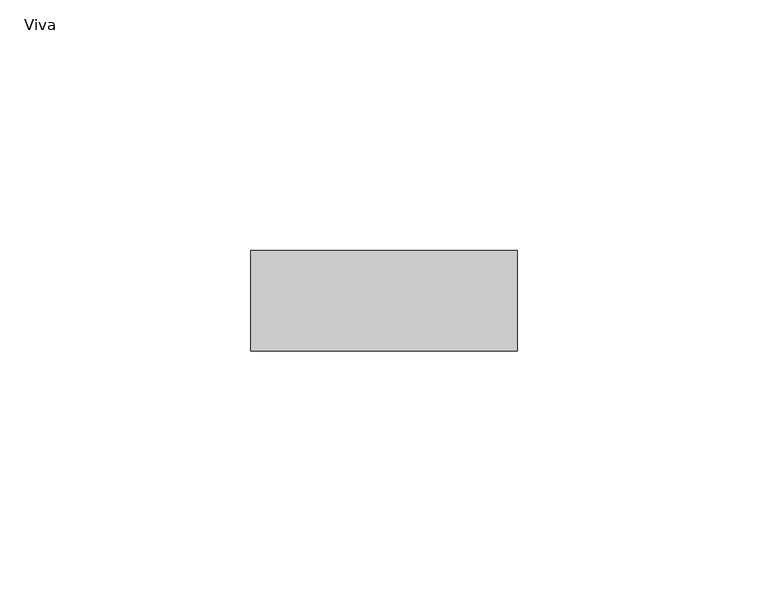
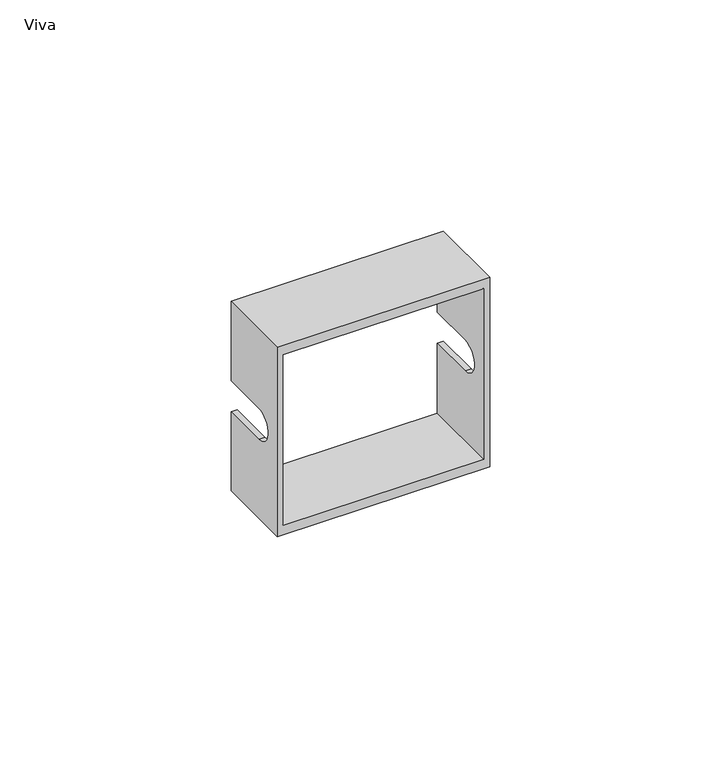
"""IFC4 building model written with IfcOpenShell, lengths in millimetres: proxy geometry, КНС_КаркасНа2МодуляДляМонтажаЭлектроустановочныхИзделий_ILF_DKC : Viva."""

from ifc_helpers import new_model, si_unit, frame, origin, place, context, project, spatial, polyline, circle_curve, source, transform, mapped, element, save
from ifc_brep_helpers import plane_surface, revolved_surface, advanced_brep


def viva_5f314de5(model_context):
    return source(origin(), model_context, "Body", "AdvancedBrep", [
        advanced_brep(
        [(25.0, -20.0, 22.5), (25.0, 0.0, 22.5), (25.0, 0.0, 4.1000022), (25.0, -11.9782075, 4.1000022), (25.0, -11.9782075, -4.1000022), (25.0, 0.0, -4.1000022), (25.0, 0.0, -22.5), (25.0, -20.0, -22.5), (-25.0, -20.0, -22.5), (-25.0, 0.0, -22.5), (-25.0, 0.0, -4.1000022), (-25.0, -11.9782075, -4.1000022), (-25.0, -11.9782075, 4.1000022), (-25.0, 0.0, 4.1000022), (-25.0, 0.0, 22.5), (-25.0, -20.0, 22.5), (26.5, 0.0, 25.0), (26.5, -20.0, 25.0), (26.5, -20.0, -25.0), (26.5, 0.0, -25.0), (26.5, 0.0, -4.1000022), (26.5, -11.9782075, -4.1000022), (26.5, -11.9782075, 4.1000022), (26.5, 0.0, 4.1000022), (-26.5, 0.0, 25.0), (-26.5, 0.0, 4.1000022), (-26.5, -11.9782075, 4.1000022), (-26.5, -11.9782075, -4.1000022), (-26.5, 0.0, -4.1000022), (-26.5, 0.0, -25.0), (-26.5, -20.0, -25.0), (-26.5, -20.0, 25.0)],
        [
            (0, 1),
            (1, 2),
            (2, 3),
            (3, 4, circle_curve(frame((25.0, -11.9782075, 0.0), z_axis=(1.0, 0.0, 0.0), x_axis=(0.0, 1.0, 0.0)), 4.1000022)),
            (4, 5),
            (5, 6),
            (6, 7),
            (7, 0),
            (8, 9),
            (9, 10),
            (10, 11),
            (11, 12, circle_curve(frame((-25.0, -11.9782075, 0.0), z_axis=(-1.0, 0.0, 0.0), x_axis=(0.0, 1.0, 0.0)), 4.1000022)),
            (12, 13),
            (13, 14),
            (14, 15),
            (15, 8),
            (0, 15),
            (14, 1),
            (6, 9),
            (8, 7),
            (16, 17),
            (17, 18),
            (18, 19),
            (19, 20),
            (20, 21),
            (21, 22, circle_curve(frame((26.5, -11.9782075, 0.0), z_axis=(-1.0, 0.0, 0.0), x_axis=(0.0, 1.0, 0.0)), 4.1000022)),
            (22, 23),
            (23, 16),
            (24, 25),
            (25, 26),
            (26, 27, circle_curve(frame((-26.5, -11.9782075, 0.0), z_axis=(1.0, 0.0, 0.0), x_axis=(0.0, 1.0, 0.0)), 4.1000022)),
            (27, 28),
            (28, 29),
            (29, 30),
            (30, 31),
            (31, 24),
            (16, 24),
            (31, 17),
            (30, 18),
            (29, 19),
            (28, 10),
            (5, 20),
            (4, 21),
            (27, 11),
            (3, 22),
            (26, 12),
            (2, 23),
            (25, 13),
        ],
        [
            plane_surface(frame((25.0, -20.0, 22.5), z_axis=(-1.0, 0.0, 0.0), x_axis=(0.0, 0.0, -1.0))),
            plane_surface(frame((-25.0, -20.0, 22.5), z_axis=(1.0, 0.0, 0.0), x_axis=(0.0, 0.0, 1.0))),
            plane_surface(frame((25.0, 0.0, 22.5), z_axis=(0.0, 0.0, -1.0), x_axis=(-1.0, 0.0, 0.0))),
            plane_surface(frame((25.0, -20.0, -22.5), z_axis=(0.0, 0.0, 1.0), x_axis=(-1.0, 0.0, 0.0))),
            plane_surface(frame((26.5, 0.0, 25.0), z_axis=(1.0, 0.0, 0.0), x_axis=(0.0, -1.0, 0.0))),
            plane_surface(frame((-26.5, 0.0, 25.0), z_axis=(-1.0, 0.0, 0.0), x_axis=(0.0, 1.0, 0.0))),
            plane_surface(frame((26.5, 0.0, 25.0), z_axis=(0.0, 0.0, 1.0), x_axis=(-1.0, 0.0, 0.0))),
            plane_surface(frame((26.5, -20.0, 25.0), z_axis=(0.0, -1.0, 0.0), x_axis=(-1.0, 0.0, 0.0))),
            plane_surface(frame((26.5, -20.0, -25.0), z_axis=(0.0, 0.0, -1.0), x_axis=(-1.0, 0.0, 0.0))),
            plane_surface(frame((26.5, 0.0, -25.0), z_axis=(0.0, 1.0, 0.0), x_axis=(-1.0, 0.0, 0.0))),
            plane_surface(frame((26.5, 0.0, -4.1000022), z_axis=(0.0, 0.0, 1.0), x_axis=(-1.0, 0.0, 0.0))),
            revolved_surface(polyline([(25.0, -7.8782053, 0.0), (26.5, -7.8782053, 0.0)]), (-26.5, -11.9782075, 0.0), (-1.0, 0.0, 0.0)),
            revolved_surface(polyline([(-26.5, -7.8782053, 0.0), (-25.0, -7.8782053, 0.0)]), (-26.5, -11.9782075, 0.0), (-1.0, 0.0, 0.0)),
            plane_surface(frame((26.5, -11.9782075, 4.1000022), z_axis=(0.0, 0.0, -1.0), x_axis=(-1.0, 0.0, 0.0))),
            plane_surface(frame((26.5, 0.0, 4.1000022), z_axis=(0.0, 1.0, 0.0), x_axis=(-1.0, 0.0, 0.0))),
        ],
        [
            (0, [[1, 2, 3, 4, 5, 6, 7, 8]]),
            (1, [[9, 10, 11, 12, 13, 14, 15, 16]]),
            (2, [[-1, 17, -15, 18]]),
            (3, [[-7, 19, -9, 20]]),
            (4, [[21, 22, 23, 24, 25, 26, 27, 28]]),
            (5, [[29, 30, 31, 32, 33, 34, 35, 36]]),
            (6, [[-21, 37, -36, 38]]),
            (7, [[-22, -38, -35, 39], [-8, -20, -16, -17]]),
            (8, [[-23, -39, -34, 40]]),
            (9, [[-24, -40, -33, 41, -10, -19, -6, 42]]),
            (10, [[-25, -42, -5, 43]]),
            (10, [[-32, 44, -11, -41]]),
            (11, [[-26, -43, -4, 45]]),
            (12, [[-31, 46, -12, -44]]),
            (13, [[-27, -45, -3, 47]]),
            (13, [[-30, 48, -13, -46]]),
            (14, [[-28, -47, -2, -18, -14, -48, -29, -37]]),
        ],
    ),
    ])


if __name__ == "__main__":
    model = new_model("IFC4")
    model_context = context("Model", 3, world=origin())
    ifc_project = project(units=[si_unit("LENGTHUNIT", "METRE", prefix="MILLI")], contexts=[model_context])
    site = spatial("IfcSite", under=ifc_project)
    building = spatial("IfcBuilding", under=site)
    placement = place(None, origin())
    viva_shape = viva_5f314de5(model_context)
    element("IfcBuildingElementProxy", 1, Name="КНС_КаркасНа2МодуляДляМонтажаЭлектроустановочныхИзделий_ILF_DKC : Viva", ObjectType="КНС_КаркасНа2МодуляДляМонтажаЭлектроустановочныхИзделий_ILF_DKC : Viva", at=placement, inside=building, context=model_context, shape_type="MappedRepresentation", body=[
        mapped(viva_shape, transform((0.0, 0.0, 0.0), x_axis=(1.0, 0.0, 0.0), y_axis=(0.0, 1.0, 0.0), z_axis=(0.0, 0.0, 1.0))),
    ])
    save(model, "model.ifc")
